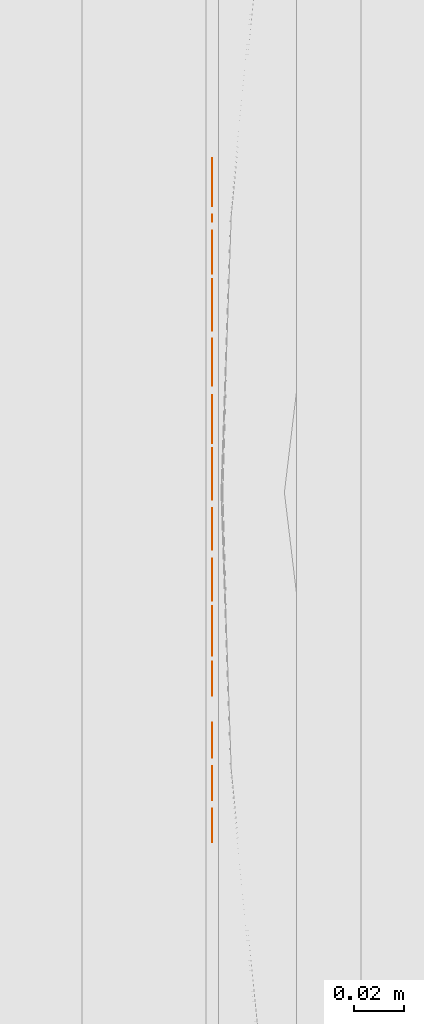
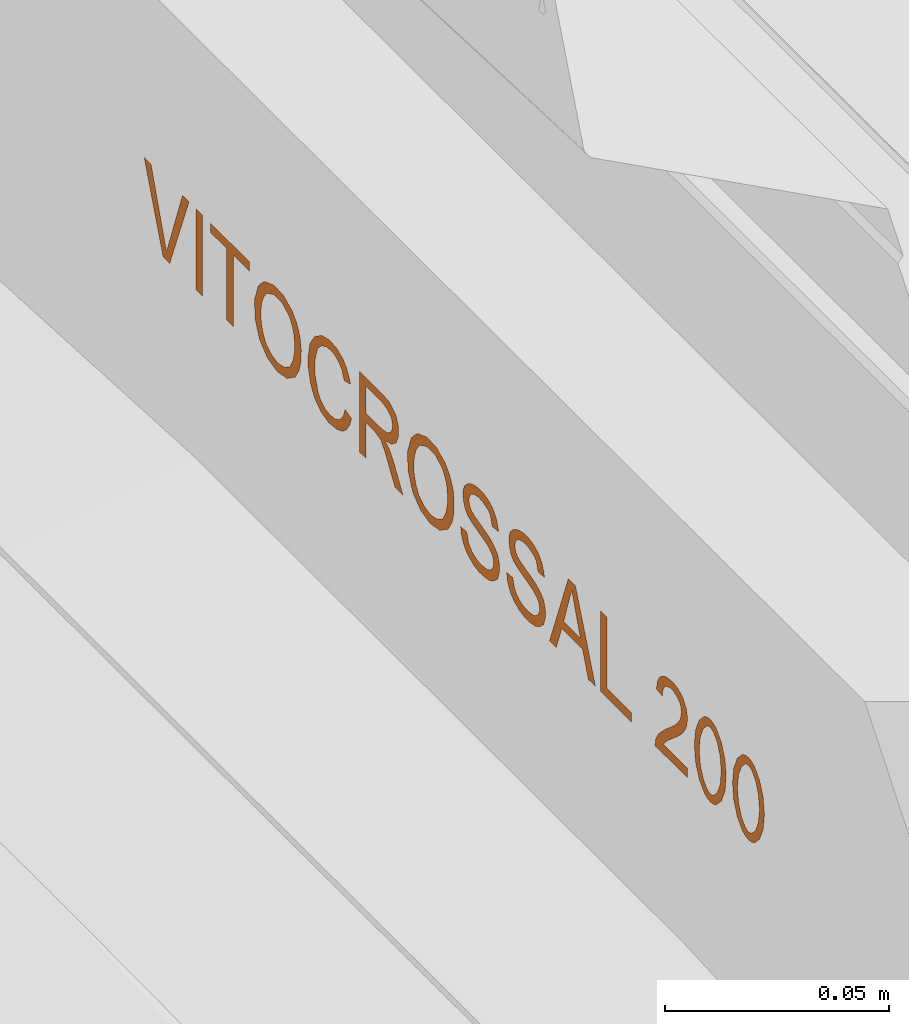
# One storey, part 366 of 374: 1 proxy.
"""IFC2X3 building model written with IfcOpenShell, lengths in metres."""

from ifc_helpers import new_model, si_unit, direction, origin, place, context, subcontext, project, spatial, open_shell, surface_model, source, transform, mapped, element, save


model = new_model("IFC2X3")

# Units and contexts
model_context = context("Model", 3, precision=1e-05, world=origin(), true_north=direction((-0.4480736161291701, 0.8939966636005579)))
body_context = subcontext(model_context, "Body", "Model", "MODEL_VIEW")
ifc_project = project(units=[si_unit("LENGTHUNIT", "METRE"), si_unit("AREAUNIT", "SQUARE_METRE"), si_unit("VOLUMEUNIT", "CUBIC_METRE"), si_unit("PLANEANGLEUNIT", "RADIAN"), si_unit("THERMODYNAMICTEMPERATUREUNIT", "KELVIN"), si_unit("MASSUNIT", "GRAM", prefix="KILO"), si_unit("TIMEUNIT", "SECOND")], contexts=[model_context])

# Site, building, storey
site_placement = place(None, origin())
site = spatial("IfcSite", under=ifc_project, at=site_placement, Name="Site 1", CompositionType="ELEMENT")
building_placement = place(site_placement, origin())
building = spatial("IfcBuilding", under=site, at=building_placement, Name="Undefined", CompositionType="ELEMENT")
storey_placement = place(building_placement, origin())
storey = spatial("IfcBuildingStorey", under=building, at=storey_placement, Name="Rez de chauss\x8ee", CompositionType="ELEMENT", Elevation=0.0)

# Proxy
shared_shape = source(origin(), body_context, "Body", "SurfaceModel", [
    surface_model("IfcFaceBasedSurfaceModel", [(0.0013176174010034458, 0.0018140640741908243, 0.0), (0.0, 0.0, 0.0), (0.0046129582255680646, -1.776356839e-15, 0.0), (0.0037990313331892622, -0.0020892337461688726, 0.0), (0.007799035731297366, -0.0007456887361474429, 0.0), (0.0076570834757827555, -0.002983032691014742, 0.0), (0.010189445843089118, -0.0004502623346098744, 0.0), (0.010986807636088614, -0.0025452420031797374, 0.0), (0.010953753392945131, -3.997256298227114e-05, 0.0), (0.012289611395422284, -0.0018400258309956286, 0.0), (0.011467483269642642, 0.0004748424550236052, 0.0), (0.013281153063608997, -0.0008424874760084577, 0.0), (0.013923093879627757, 0.00040886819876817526, 0.0), (-0.0014271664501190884, 0.004386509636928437, 0.0), (-0.003161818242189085, 0.002966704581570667, 0.0), (-0.003121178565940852, 0.007185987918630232, 0.0), (-0.005204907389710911, 0.006359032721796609, 0.0), (-0.0035795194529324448, 0.009550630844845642, 0.0), (-0.005818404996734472, 0.009660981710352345, 0.0), (-0.003425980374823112, 0.010404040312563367, 0.0), (-0.005550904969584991, 0.011117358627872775, 0.0), (-0.003095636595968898, 0.011052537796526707, 0.0), (-0.00490871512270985, 0.012369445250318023, 0.0), (-0.0039166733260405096, 0.013367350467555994, 0.0), (-0.0025811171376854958, 0.011567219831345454, 0.0), (-0.0026144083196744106, 0.014072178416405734, 0.0), (-0.0018170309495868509, 0.011977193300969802, 0.0), (0.0007156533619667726, 0.014509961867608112, 0.0), (0.0005736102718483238, 0.012272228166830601, 0.0), (0.0045733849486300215, 0.013616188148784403, 0.0), (0.0037595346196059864, 0.011527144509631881, 0.0), (0.008372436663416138, 0.011526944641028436, 0.0), (0.0070550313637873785, 0.009713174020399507, 0.0), (0.009799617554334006, 0.007140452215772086, 0.0), (0.011534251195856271, 0.008560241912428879, 0.0), (0.01149377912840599, 0.004340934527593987, 0.0), (0.01357737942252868, 0.005167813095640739, 0.0), (0.01195197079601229, 0.0019763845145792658, 0.0), (0.014190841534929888, 0.0018660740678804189, 0.0), (0.01179816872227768, 0.001122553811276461, 0.0), (-0.008697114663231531, -0.01197399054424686, 0.0), (-0.010014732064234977, -0.013788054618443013, 0.0), (-0.005401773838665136, -0.01378805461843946, 0.0), (-0.006215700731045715, -0.015877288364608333, 0.0), (-0.002215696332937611, -0.014533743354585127, 0.0), (-0.0023576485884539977, -0.01677108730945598, 0.0), (0.00017471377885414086, -0.014238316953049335, 0.0), (0.0009720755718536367, -0.016333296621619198, 0.0), (0.0009390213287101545, -0.013828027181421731, 0.0), (0.0022748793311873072, -0.01562808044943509, 0.0), (0.0014527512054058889, -0.013313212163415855, 0.0), (0.0032664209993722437, -0.014630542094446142, 0.0), (0.00390836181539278, -0.013379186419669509, 0.0), (-0.011441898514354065, -0.009401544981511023, 0.0), (-0.013176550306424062, -0.010821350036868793, 0.0), (-0.013135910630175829, -0.006602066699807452, 0.0), (-0.015219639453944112, -0.007429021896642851, 0.0), (-0.013594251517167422, -0.004237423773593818, 0.0), (-0.015833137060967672, -0.004127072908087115, 0.0), (-0.013440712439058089, -0.0033840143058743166, 0.0), (-0.015565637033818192, -0.002670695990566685, 0.0), (-0.013110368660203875, -0.0027355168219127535, 0.0), (-0.014923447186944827, -0.0014186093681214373, 0.0), (-0.01393140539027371, -0.0004207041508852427, 0.0), (-0.012595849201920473, -0.002220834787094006, 0.0), (-0.012629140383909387, 0.00028412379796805, 0.0), (-0.011831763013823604, -0.0018108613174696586, 0.0), (-0.009299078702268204, 0.0007219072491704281, 0.0), (-0.009441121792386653, -0.0015158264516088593, 0.0), (-0.005441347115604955, -0.00017186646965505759, 0.0), (-0.00625519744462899, -0.0022609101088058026, 0.0), (-0.0016422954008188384, -0.0022611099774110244, 0.0), (-0.0029597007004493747, -0.004074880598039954, 0.0), (-0.00021511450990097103, -0.006647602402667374, 0.0), (0.0015195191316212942, -0.005227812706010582, 0.0), (0.001479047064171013, -0.009447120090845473, 0.0), (0.0035626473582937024, -0.008620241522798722, 0.0), (0.0019372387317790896, -0.011811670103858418, 0.0), (0.004176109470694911, -0.011921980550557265, 0.0), (0.001783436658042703, -0.012665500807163, 0.0), (0.040251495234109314, 0.03642580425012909, 0.0), (0.041944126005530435, 0.03875617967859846, 0.0), (0.02458619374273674, 0.04780404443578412, 0.0), (0.024142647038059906, 0.051685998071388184, 0.0), (0.01610265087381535, 0.04061671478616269, 0.0), (0.01823882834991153, 0.039065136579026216, 0.0), (0.03426422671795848, 0.054321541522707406, 0.0), (0.025459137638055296, 0.05349851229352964, 0.0), (0.036770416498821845, 0.05368780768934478, 0.0), (0.04852657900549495, 0.04781875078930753, 0.0), (0.04763670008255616, 0.05054164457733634, 0.0), (0.05040727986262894, 0.05040805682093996, 0.0), (0.04951944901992, 0.051769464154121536, 0.0), (0.037542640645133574, 0.07013480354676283, 0.0), (0.03967124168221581, 0.06176579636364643, 0.0), (0.041143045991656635, 0.05970794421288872, 0.0), (0.03920106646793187, 0.061118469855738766, 0.0), (0.03482843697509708, 0.05509833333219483, 0.0), (0.035755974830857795, 0.06767496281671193, 0.0), (0.027386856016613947, 0.05615255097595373, 0.0), (0.06100633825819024, 0.06442459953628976, 0.0), (0.06227378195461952, 0.06614656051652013, 0.0), (0.060170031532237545, 0.06755515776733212, 0.0), (0.06315482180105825, 0.06809472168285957, 0.0), (0.06093653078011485, 0.06926096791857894, 0.0), (0.06356008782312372, 0.06974943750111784, 0.0), (0.061187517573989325, 0.0705969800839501, 0.0), (0.06359093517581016, 0.07145277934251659, 0.0), (0.06083631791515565, 0.07191021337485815, 0.0), (0.06324584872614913, 0.07312108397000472, 0.0), (0.062377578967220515, 0.0743092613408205, 0.0), (0.05899523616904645, 0.06610010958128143, 0.0), (0.05940807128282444, 0.06300435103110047, 0.0), (0.05748926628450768, 0.06499134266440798, 0.0), (0.05689018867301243, 0.0645812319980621, 0.0), (0.05735051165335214, 0.06188122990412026, 0.0), (0.05620057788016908, 0.06435424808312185, 0.0), (0.05502944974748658, 0.06155316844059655, 0.0), (0.05547503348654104, 0.06432836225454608, 0.0), (0.05274122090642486, 0.062062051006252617, 0.0), (0.05312761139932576, 0.06504454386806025, 0.0), (0.051676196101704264, 0.06263784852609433, 0.0), (0.059951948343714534, 0.07294259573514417, 0.0), (0.061254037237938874, 0.0752596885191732, 0.0), (0.05993835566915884, 0.0759189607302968, 0.0), (0.058712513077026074, 0.07338172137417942, 0.0), (0.05826991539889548, 0.07632036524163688, 0.0), (0.05740569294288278, 0.07323593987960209, 0.0), (0.05657350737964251, 0.07606148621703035, 0.0), (0.05510073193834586, 0.07518071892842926, 0.0), (0.05197002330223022, 0.06907225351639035, 0.0), (0.05299516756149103, 0.06989359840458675, 0.0), (0.050547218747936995, 0.07156627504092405, 0.0), (0.05400055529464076, 0.07073901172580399, 0.0), (0.05629349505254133, 0.07253447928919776, 0.0), (0.04941931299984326, 0.07065395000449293, 0.0), (0.050925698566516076, 0.06827543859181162, 0.0), (0.04956789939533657, 0.06750198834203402, 0.0), (0.04813186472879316, 0.06998538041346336, 0.0), (0.04810509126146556, 0.06695241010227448, 0.0), (0.04673679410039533, 0.06958752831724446, 0.0), (0.04657390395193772, 0.06664046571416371, 0.0), (0.04446046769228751, 0.06735959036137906, 0.0), (0.04546863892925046, 0.0698845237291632, 0.0), (0.04267054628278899, 0.06869373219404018, 0.0), (0.04443170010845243, 0.07067267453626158, 0.0), (0.04137757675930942, 0.07051361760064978, 0.0), (0.0438061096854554, 0.07181506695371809, 0.0), (0.041010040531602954, 0.07287199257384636, 0.0), (0.0436515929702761, 0.07315922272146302, 0.0), (0.041364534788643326, 0.07523236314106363, 0.0), (0.04390347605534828, 0.07448857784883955, 0.0), (0.04453900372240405, 0.07568303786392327, 0.0), (0.042408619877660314, 0.07737873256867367, 0.0), (0.045443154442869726, 0.07713446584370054, 0.0), (0.043814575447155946, 0.07936990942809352, 0.0), (0.04663502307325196, 0.07836067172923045, 0.0), (0.04562214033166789, 0.08100520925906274, 0.0), (0.048060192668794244, 0.07930567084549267, 0.0), (0.04774371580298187, 0.08220538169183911, 0.0), (0.048909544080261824, 0.07965011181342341, 0.0), (0.04944031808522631, 0.08266436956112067, 0.0), (0.049808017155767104, 0.079831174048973, 0.0), (0.05072448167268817, 0.07984258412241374, 0.0), (0.05302488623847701, 0.07906166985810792, 0.0), (0.05291113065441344, 0.08230855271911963, 0.0), (0.05119755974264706, 0.08269945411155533, 0.0), (0.054476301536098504, 0.08146836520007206, 0.0), (0.07304282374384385, 0.08099615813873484, 0.0), (0.07431026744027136, 0.08271811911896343, 0.0), (0.07220651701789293, 0.0841267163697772, 0.0), (0.07519130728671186, 0.0846662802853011, 0.0), (0.07297301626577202, 0.0858325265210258, 0.0), (0.07559657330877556, 0.08632099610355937, 0.0), (0.07322400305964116, 0.08716853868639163, 0.0), (0.07562742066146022, 0.0880243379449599, 0.0), (0.07287280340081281, 0.08848177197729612, 0.0), (0.07528233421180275, 0.08969264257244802, 0.0), (0.07441406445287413, 0.0908808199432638, 0.0), (0.07103172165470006, 0.08267166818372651, 0.0), (0.07144455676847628, 0.079575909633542, 0.0), (0.06952575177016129, 0.08156290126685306, 0.0), (0.0689266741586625, 0.0811527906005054, 0.0), (0.06938699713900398, 0.07845278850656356, 0.0), (0.06823706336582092, 0.08092580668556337, 0.0), (0.0670659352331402, 0.07812472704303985, 0.0), (0.06751151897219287, 0.0808999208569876, 0.0), (0.0647777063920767, 0.07863360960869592, 0.0), (0.0651640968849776, 0.08161610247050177, 0.0), (0.06371268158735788, 0.07920940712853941, 0.0), (0.07198843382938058, 0.08951415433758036, 0.0), (0.07329052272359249, 0.09183124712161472, 0.0), (0.07197484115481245, 0.0924905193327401, 0.0), (0.07074899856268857, 0.08995327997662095, 0.0), (0.07030640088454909, 0.0928919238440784, 0.0), (0.06944217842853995, 0.08980749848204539, 0.0), (0.0686099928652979, 0.0926330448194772, 0.0), (0.06713721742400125, 0.09175227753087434, 0.0), (0.06400650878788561, 0.08564381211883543, 0.0), (0.06503165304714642, 0.08646515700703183, 0.0), (0.06258370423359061, 0.08813783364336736, 0.0), (0.06603704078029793, 0.08731057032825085, 0.0), (0.06832998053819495, 0.08910603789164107, 0.0), (0.06145579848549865, 0.08722550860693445, 0.0), (0.06296218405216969, 0.08484699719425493, 0.0), (0.061604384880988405, 0.08407354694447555, 0.0), (0.06016835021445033, 0.08655693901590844, 0.0), (0.060141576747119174, 0.08352396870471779, 0.0), (0.05877327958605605, 0.08615908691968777, 0.0), (0.05861038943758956, 0.08321202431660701, 0.0), (0.05649695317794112, 0.08393114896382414, 0.0), (0.05750512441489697, 0.08645608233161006, 0.0), (0.05470703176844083, 0.08526529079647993, 0.0), (0.056468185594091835, 0.08724423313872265, 0.0), (0.053414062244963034, 0.08708517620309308, 0.0), (0.05584259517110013, 0.08838662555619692, 0.0), (0.05304652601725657, 0.08944355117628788, 0.0), (0.05568807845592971, 0.08973078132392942, 0.0), (0.05340102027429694, 0.09180392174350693, 0.0), (0.055939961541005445, 0.09106013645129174, 0.0), (0.05657548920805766, 0.09225459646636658, 0.0), (0.05444510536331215, 0.09395029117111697, 0.0), (0.05747963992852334, 0.09370602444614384, 0.0), (0.05585106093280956, 0.09594146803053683, 0.0), (0.05867150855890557, 0.09493223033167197, 0.0), (0.05765862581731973, 0.09757676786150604, 0.0), (0.06009667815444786, 0.09587722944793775, 0.0), (0.05978020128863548, 0.09877694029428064, 0.0), (0.06094602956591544, 0.09622167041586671, 0.0), (0.06147680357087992, 0.09923592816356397, 0.0), (0.061844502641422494, 0.09640273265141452, 0.0), (0.06276096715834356, 0.09641414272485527, 0.0), (0.06506137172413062, 0.09563322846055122, 0.0), (0.06494761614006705, 0.09888011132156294, 0.0), (0.06323404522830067, 0.09927101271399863, 0.0), (0.06651278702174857, 0.09803992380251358, 0.0), (0.08886711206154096, 0.10540077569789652, 0.0), (0.08874172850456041, 0.10679271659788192, 0.0), (0.08618137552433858, 0.10626380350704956, 0.0), (0.08852291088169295, 0.10817305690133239, 0.0), (0.08540516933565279, 0.10867005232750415, 0.0), (0.08821165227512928, 0.1095355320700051, 0.0), (0.08402348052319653, 0.1107874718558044, 0.0), (0.08536935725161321, 0.1136260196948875, 0.0), (0.08213357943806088, 0.11246699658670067, 0.0), (0.08122729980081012, 0.1163926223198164, 0.0), (0.08006992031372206, 0.11373243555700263, 0.0), (0.07777252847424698, 0.11449533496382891, 0.0), (0.08556167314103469, 0.1026330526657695, 0.0), (0.08768271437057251, 0.10125592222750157, 0.0), (0.08329294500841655, 0.09973145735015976, 0.0), (0.08498166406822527, 0.09789631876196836, 0.0), (0.08118793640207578, 0.09584931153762, 0.0), (0.07991885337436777, 0.09825433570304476, 0.0), (0.07815741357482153, 0.09545269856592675, 0.0), (0.07790933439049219, 0.09829534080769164, 0.0), (0.07514132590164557, 0.09594725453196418, 0.0), (0.07596772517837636, 0.09881495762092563, 0.0), (0.07239616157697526, 0.09729092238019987, 0.0), (0.07420633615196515, 0.09978312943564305, 0.0), (0.07197182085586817, 0.10138800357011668, 0.0), (0.06976412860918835, 0.09928282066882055, 0.0), (0.07020447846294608, 0.10349636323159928, 0.0), (0.06774688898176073, 0.10189548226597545, 0.0), (0.06648576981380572, 0.10494586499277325, 0.0), (0.06901446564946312, 0.10597679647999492, 0.0), (0.06657589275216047, 0.10943632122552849, 0.0), (0.0691287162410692, 0.10895535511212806, 0.0), (0.07037554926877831, 0.11166280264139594, 0.0), (0.06853862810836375, 0.11347612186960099, 0.0), (0.07256463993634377, 0.11368585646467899, 0.0), (0.07201302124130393, 0.11632233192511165, 0.0), (0.07536183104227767, 0.11471570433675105, 0.0), (0.07636011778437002, 0.1174515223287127, 0.0), (0.09731650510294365, 0.11907580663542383, 0.0), (0.0993525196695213, 0.11779474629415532, 0.0), (0.10140702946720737, 0.1247075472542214, 0.0), (0.10334900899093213, 0.12329702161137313, 0.0), (0.10508865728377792, 0.12569212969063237, 0.0), (0.09579097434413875, 0.11763607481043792, 0.0), (0.09710769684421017, 0.1151950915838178, 0.0), (0.09391219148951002, 0.11670320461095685, 0.0), (0.09397280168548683, 0.11379157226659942, 0.0), (0.09278293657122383, 0.1168175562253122, 0.0), (0.09129981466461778, 0.11432393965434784, 0.0), (0.09174995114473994, 0.11728791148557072, 0.0), (0.08905991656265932, 0.11587672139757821, 0.0), (0.0909222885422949, 0.11806461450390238, 0.0), (0.08771797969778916, 0.11809612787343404, 0.0), (0.09038732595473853, 0.11906566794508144, 0.0), (0.08760994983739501, 0.12068743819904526, 0.0), (0.09030981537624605, 0.1210511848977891, 0.0), (0.08805925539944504, 0.12189120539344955, 0.0), (0.08865525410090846, 0.12348798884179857, 0.0), (0.09119381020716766, 0.12283074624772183, 0.0), (0.09184899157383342, 0.12393699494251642, 0.0), (0.09344491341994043, 0.13049070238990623, 0.0), (0.09551635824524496, 0.12898614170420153, 0.0), (0.09147017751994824, 0.12777193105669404, 0.0), (0.08921266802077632, 0.1257529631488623, 0.0), (0.08611296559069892, 0.12543342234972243, 0.0), (0.0865714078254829, 0.12268665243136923, 0.0), (0.08435014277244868, 0.12246184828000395, 0.0), (0.08728717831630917, 0.13862194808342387, 0.0), (0.08554753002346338, 0.13622684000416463, 0.0), (0.0780247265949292, 0.12586961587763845, 0.0), (0.0758619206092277, 0.12289191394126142, 0.0), (0.11088139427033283, 0.1372070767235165, 0.0), (0.1095682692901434, 0.1359432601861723, 0.0), (0.1111717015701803, 0.1339050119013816, 0.0), (0.10796226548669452, 0.1350817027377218, 0.0), (0.10823749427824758, 0.13220561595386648, 0.0), (0.10618309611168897, 0.13468662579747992, 0.0), (0.10634820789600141, 0.1319603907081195, 0.0), (0.1044449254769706, 0.1320443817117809, 0.0), (0.11338185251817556, 0.13647653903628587, 0.0), (0.11196348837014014, 0.1392227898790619, 0.0), (0.11462095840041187, 0.1396328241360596, 0.0), (0.1123382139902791, 0.14147969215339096, 0.0), (0.11471803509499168, 0.14343599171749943, 0.0), (0.11196558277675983, 0.1437369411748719, 0.0), (0.1134006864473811, 0.14700503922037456, 0.0), (0.1095647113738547, 0.14698306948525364, 0.0), (0.11085599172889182, 0.1498331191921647, 0.0), (0.10628184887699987, 0.1493334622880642, 0.0), (0.10803362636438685, 0.15186728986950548, 0.0), (0.10478041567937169, 0.15310026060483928, 0.0), (0.10243523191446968, 0.1505602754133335, 0.0), (0.10131878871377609, 0.1534477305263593, 0.0), (0.10019771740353, 0.15044086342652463, 0.0), (0.09783982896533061, 0.15227226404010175, 0.0), (0.09817022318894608, 0.14948692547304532, 0.0), (0.09501476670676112, 0.14992622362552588, 0.0), (0.09665179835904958, 0.14783916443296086, 0.0), (0.09322024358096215, 0.14672238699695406, 0.0), (0.0955956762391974, 0.14586518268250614, 0.0), (0.09262698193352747, 0.14433404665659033, 0.0), (0.09532795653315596, 0.14364249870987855, 0.0), (0.0927608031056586, 0.1418767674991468, 0.0), (0.09588514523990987, 0.14147419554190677, 0.0), (0.09360992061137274, 0.13956697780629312, 0.0), (0.09404211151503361, 0.13883137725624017, 0.0), (0.09730993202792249, 0.1393516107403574, 0.0), (0.0945176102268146, 0.1381230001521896, 0.0), (0.09503470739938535, 0.13744439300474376, 0.0), (0.10369462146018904, 0.13520860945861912, 0.0), (0.10258458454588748, 0.1324550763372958, 0.0), (0.12126374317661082, 0.15102476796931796, 0.0), (0.1250574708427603, 0.15307177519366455, 0.0), (0.12336875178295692, 0.15490691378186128, 0.0), (0.12775852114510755, 0.15643137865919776, 0.0), (0.1256374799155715, 0.15780850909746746, 0.0), (0.12894291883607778, 0.16057623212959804, 0.0), (0.12625718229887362, 0.16143925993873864, 0.0), (0.12881753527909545, 0.1619681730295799, 0.0), (0.128598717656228, 0.16334851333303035, 0.0), (0.11999466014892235, 0.1534297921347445, 0.0), (0.11823322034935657, 0.15062815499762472, 0.0), (0.11798514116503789, 0.15347079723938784, 0.0), (0.11521713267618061, 0.15112271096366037, 0.0), (0.11604353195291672, 0.15399041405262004, 0.0), (0.1124719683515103, 0.15246637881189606, 0.0), (0.11428214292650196, 0.15495858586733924, 0.0), (0.11204762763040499, 0.15656346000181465, 0.0), (0.10983993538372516, 0.15445827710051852, 0.0), (0.1102802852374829, 0.15867181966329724, 0.0), (0.10782269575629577, 0.1570709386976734, 0.0), (0.10656157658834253, 0.16012132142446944, 0.0), (0.10909027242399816, 0.16115225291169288, 0.0), (0.10665169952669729, 0.16461177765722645, 0.0), (0.10920452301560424, 0.16413081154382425, 0.0), (0.11045135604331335, 0.1668382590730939, 0.0), (0.10861443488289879, 0.16865157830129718, 0.0), (0.1126404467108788, 0.16886131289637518, 0.0), (0.11208882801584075, 0.17149778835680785, 0.0), (0.11543763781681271, 0.169891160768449, 0.0), (0.11643592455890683, 0.17262697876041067, 0.0), (0.11784833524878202, 0.16967079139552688, 0.0), (0.12130310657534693, 0.17156807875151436, 0.0), (0.1201457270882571, 0.1689078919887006, 0.0), (0.12220938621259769, 0.16764245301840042, 0.0), (0.12544516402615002, 0.16880147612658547, 0.0), (0.12409928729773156, 0.16596292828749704, 0.0), (0.1282874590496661, 0.16471098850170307, 0.0), (0.1254809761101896, 0.1638455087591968, 0.0), (0.13183895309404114, 0.16687780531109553, 0.0), (0.13391039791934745, 0.16537324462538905, 0.0), (0.1361175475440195, 0.17276847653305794, 0.0), (0.1441602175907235, 0.17948496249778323, 0.0), (0.13785719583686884, 0.17516358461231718, 0.0), (0.1420887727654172, 0.18098952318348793, 0.0), (0.12212716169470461, 0.1865888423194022, 0.0), (0.12038751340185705, 0.18419373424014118, 0.0), (0.14792161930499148, 0.18466357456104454, 0.0), (0.13012014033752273, 0.19759339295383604, 0.0), (0.14622898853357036, 0.18233319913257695, 0.0), (0.1284275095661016, 0.19526301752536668, 0.0), (0.15149495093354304, 0.18958325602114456, 0.0), (0.1398200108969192, 0.20686375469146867, 0.0), (0.14975530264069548, 0.1871881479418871, 0.0), (0.13703171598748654, 0.20710909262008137, 0.0), (0.15972301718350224, 0.2009114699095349, 0.0), (0.16155670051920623, 0.20343604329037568, 0.0), (0.13877136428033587, 0.20950420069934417, 0.0), (0.02282794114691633, 0.012328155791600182, 0.0), (0.021090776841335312, 0.013819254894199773, 0.0), (0.021485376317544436, 0.010997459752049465, 0.0), (0.019854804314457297, 0.012972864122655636, 0.0), (0.019204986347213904, 0.009894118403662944, 0.0), (0.01859326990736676, 0.012419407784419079, 0.0), (0.016672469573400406, 0.00983167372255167, 0.0), (0.01721648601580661, 0.01246683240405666, 0.0), (0.014340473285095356, 0.010821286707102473, 0.0), (0.0159960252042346, 0.013105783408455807, 0.0), (0.015165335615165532, 0.013957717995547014, 0.0), (0.023894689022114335, 0.013888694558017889, 0.0), (0.021971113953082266, 0.015031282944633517, 0.0), (0.024647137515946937, 0.015622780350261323, 0.0), (0.022393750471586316, 0.016468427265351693, 0.0), (0.024939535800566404, 0.017272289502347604, 0.0), (0.02239043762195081, 0.01758141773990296, 0.0), (0.02471578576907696, 0.01893250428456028, 0.0), (0.022025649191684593, 0.01863293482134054, 0.0), (0.023997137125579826, 0.02044575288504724, 0.0), (0.021338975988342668, 0.019508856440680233, 0.0), (0.022319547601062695, 0.02235642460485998, 0.0), (0.020462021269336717, 0.02034358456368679, 0.0), (0.01262580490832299, 0.01268607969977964, 0.0), (0.014522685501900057, 0.014959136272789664, 0.0), (0.011712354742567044, 0.014768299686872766, 0.0), (0.014094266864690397, 0.01606922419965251, 0.0), (0.01113283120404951, 0.016966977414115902, 0.0), (0.013701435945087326, 0.01774286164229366, 0.0), (0.01090125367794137, 0.019228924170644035, 0.0), (0.01343227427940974, 0.01944078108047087, 0.0), (0.013288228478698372, 0.02115385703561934, 0.0), (0.013078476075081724, 0.02363695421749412, 0.0), (0.010394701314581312, 0.02513430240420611, 0.0), (0.012744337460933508, 0.026106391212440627, 0.0), (0.009822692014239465, 0.027477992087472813, 0.0), (0.012286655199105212, 0.02855594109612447, 0.0), (0.011261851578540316, 0.030684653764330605, 0.0), (0.009896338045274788, 0.03207200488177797, 0.0), (0.0013391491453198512, 0.02029066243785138, 0.0), (0.003475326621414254, 0.018739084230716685, 0.0)], [open_shell([[[0, 1, 2]], [[2, 1, 3]], [[2, 3, 4]], [[4, 3, 5]], [[4, 5, 6]], [[6, 5, 7]], [[6, 7, 8]], [[8, 7, 9]], [[8, 9, 10]], [[10, 9, 11]], [[10, 11, 12]], [[0, 13, 1]], [[1, 13, 14]], [[13, 15, 14]], [[14, 15, 16]], [[15, 17, 16]], [[16, 17, 18]], [[17, 19, 18]], [[18, 19, 20]], [[19, 21, 20]], [[20, 21, 22]], [[22, 21, 23]], [[23, 21, 24]], [[23, 24, 25]], [[25, 24, 26]], [[25, 26, 27]], [[27, 26, 28]], [[27, 28, 29]], [[29, 28, 30]], [[29, 30, 31]], [[31, 30, 32]], [[31, 32, 33]], [[31, 33, 34]], [[34, 33, 35]], [[34, 35, 36]], [[36, 35, 37]], [[36, 37, 38]], [[38, 37, 39]], [[38, 39, 12]], [[12, 39, 10]], [[40, 41, 42]], [[42, 41, 43]], [[42, 43, 44]], [[44, 43, 45]], [[44, 45, 46]], [[46, 45, 47]], [[46, 47, 48]], [[48, 47, 49]], [[48, 49, 50]], [[50, 49, 51]], [[50, 51, 52]], [[40, 53, 41]], [[41, 53, 54]], [[53, 55, 54]], [[54, 55, 56]], [[55, 57, 56]], [[56, 57, 58]], [[57, 59, 58]], [[58, 59, 60]], [[59, 61, 60]], [[60, 61, 62]], [[62, 61, 63]], [[63, 61, 64]], [[63, 64, 65]], [[65, 64, 66]], [[65, 66, 67]], [[67, 66, 68]], [[67, 68, 69]], [[69, 68, 70]], [[69, 70, 71]], [[71, 70, 72]], [[71, 72, 73]], [[71, 73, 74]], [[74, 73, 75]], [[74, 75, 76]], [[76, 75, 77]], [[76, 77, 78]], [[78, 77, 79]], [[78, 79, 52]], [[52, 79, 50]], [[80, 81, 82]], [[82, 81, 83]], [[82, 83, 84]], [[84, 85, 82]], [[86, 87, 88]], [[88, 87, 89]], [[88, 89, 90]], [[90, 89, 91]], [[90, 91, 92]], [[93, 94, 95]], [[95, 94, 96]], [[95, 96, 88]], [[88, 96, 97]], [[88, 97, 86]], [[93, 95, 92]], [[92, 95, 90]], [[93, 98, 94]], [[86, 99, 87]], [[100, 101, 102]], [[102, 101, 103]], [[102, 103, 104]], [[104, 103, 105]], [[104, 105, 106]], [[106, 105, 107]], [[106, 107, 108]], [[108, 107, 109]], [[108, 109, 110]], [[102, 111, 100]], [[100, 111, 112]], [[111, 113, 112]], [[112, 113, 114]], [[112, 114, 115]], [[115, 114, 116]], [[115, 116, 117]], [[117, 116, 118]], [[117, 118, 119]], [[119, 118, 120]], [[119, 120, 121]], [[108, 110, 122]], [[122, 110, 123]], [[122, 123, 124]], [[122, 124, 125]], [[125, 124, 126]], [[125, 126, 127]], [[127, 126, 128]], [[127, 128, 129]], [[130, 131, 132]], [[132, 131, 133]], [[132, 133, 129]], [[129, 133, 134]], [[129, 134, 127]], [[132, 135, 130]], [[130, 135, 136]], [[136, 135, 137]], [[137, 135, 138]], [[137, 138, 139]], [[139, 138, 140]], [[139, 140, 141]], [[141, 140, 142]], [[140, 143, 142]], [[142, 143, 144]], [[143, 145, 144]], [[144, 145, 146]], [[145, 147, 146]], [[146, 147, 148]], [[147, 149, 148]], [[148, 149, 150]], [[149, 151, 150]], [[150, 151, 152]], [[150, 152, 153]], [[153, 152, 154]], [[153, 154, 155]], [[155, 154, 156]], [[155, 156, 157]], [[157, 156, 158]], [[157, 158, 159]], [[159, 158, 160]], [[159, 160, 161]], [[161, 160, 162]], [[161, 162, 163]], [[164, 165, 163]], [[163, 165, 166]], [[163, 166, 161]], [[164, 167, 165]], [[168, 169, 170]], [[170, 169, 171]], [[170, 171, 172]], [[172, 171, 173]], [[172, 173, 174]], [[174, 173, 175]], [[174, 175, 176]], [[176, 175, 177]], [[176, 177, 178]], [[170, 179, 168]], [[168, 179, 180]], [[179, 181, 180]], [[180, 181, 182]], [[180, 182, 183]], [[183, 182, 184]], [[183, 184, 185]], [[185, 184, 186]], [[185, 186, 187]], [[187, 186, 188]], [[187, 188, 189]], [[176, 178, 190]], [[190, 178, 191]], [[190, 191, 192]], [[190, 192, 193]], [[193, 192, 194]], [[193, 194, 195]], [[195, 194, 196]], [[195, 196, 197]], [[198, 199, 200]], [[200, 199, 201]], [[200, 201, 197]], [[197, 201, 202]], [[197, 202, 195]], [[200, 203, 198]], [[198, 203, 204]], [[204, 203, 205]], [[205, 203, 206]], [[205, 206, 207]], [[207, 206, 208]], [[207, 208, 209]], [[209, 208, 210]], [[208, 211, 210]], [[210, 211, 212]], [[211, 213, 212]], [[212, 213, 214]], [[213, 215, 214]], [[214, 215, 216]], [[215, 217, 216]], [[216, 217, 218]], [[217, 219, 218]], [[218, 219, 220]], [[218, 220, 221]], [[221, 220, 222]], [[221, 222, 223]], [[223, 222, 224]], [[223, 224, 225]], [[225, 224, 226]], [[225, 226, 227]], [[227, 226, 228]], [[227, 228, 229]], [[229, 228, 230]], [[229, 230, 231]], [[232, 233, 231]], [[231, 233, 234]], [[231, 234, 229]], [[232, 235, 233]], [[236, 237, 238]], [[238, 237, 239]], [[238, 239, 240]], [[240, 239, 241]], [[240, 241, 242]], [[242, 241, 243]], [[242, 243, 244]], [[244, 243, 245]], [[244, 245, 246]], [[246, 245, 247]], [[238, 248, 236]], [[236, 248, 249]], [[248, 250, 249]], [[249, 250, 251]], [[251, 250, 252]], [[252, 250, 253]], [[252, 253, 254]], [[254, 253, 255]], [[254, 255, 256]], [[256, 255, 257]], [[256, 257, 258]], [[258, 257, 259]], [[258, 259, 260]], [[258, 260, 261]], [[261, 260, 262]], [[261, 262, 263]], [[263, 262, 264]], [[262, 265, 264]], [[264, 265, 266]], [[265, 267, 266]], [[266, 267, 268]], [[266, 268, 269]], [[269, 268, 270]], [[269, 270, 271]], [[271, 270, 272]], [[271, 272, 273]], [[273, 272, 247]], [[273, 247, 245]], [[274, 275, 276]], [[276, 275, 277]], [[276, 277, 278]], [[274, 279, 275]], [[275, 279, 280]], [[279, 281, 280]], [[280, 281, 282]], [[281, 283, 282]], [[282, 283, 284]], [[283, 285, 284]], [[284, 285, 286]], [[285, 287, 286]], [[286, 287, 288]], [[287, 289, 288]], [[288, 289, 290]], [[289, 291, 290]], [[290, 291, 292]], [[292, 291, 293]], [[293, 291, 294]], [[293, 294, 295]], [[278, 296, 297]], [[297, 296, 298]], [[297, 298, 295]], [[295, 298, 299]], [[295, 299, 293]], [[293, 299, 300]], [[293, 300, 301]], [[301, 300, 302]], [[297, 276, 278]], [[278, 303, 296]], [[296, 303, 304]], [[300, 305, 302]], [[302, 305, 306]], [[307, 308, 309]], [[309, 308, 310]], [[309, 310, 311]], [[311, 310, 312]], [[311, 312, 313]], [[313, 312, 314]], [[309, 315, 307]], [[307, 315, 316]], [[315, 317, 316]], [[316, 317, 318]], [[317, 319, 318]], [[318, 319, 320]], [[319, 321, 320]], [[320, 321, 322]], [[321, 323, 322]], [[322, 323, 324]], [[323, 325, 324]], [[324, 325, 326]], [[324, 326, 327]], [[327, 326, 328]], [[327, 328, 329]], [[329, 328, 330]], [[329, 330, 331]], [[331, 330, 332]], [[331, 332, 333]], [[333, 332, 334]], [[333, 334, 335]], [[335, 334, 336]], [[335, 336, 337]], [[337, 336, 338]], [[337, 338, 339]], [[339, 338, 340]], [[339, 340, 341]], [[339, 341, 342]], [[342, 341, 343]], [[342, 343, 344]], [[312, 345, 314]], [[314, 345, 346]], [[347, 348, 349]], [[349, 348, 350]], [[349, 350, 351]], [[351, 350, 352]], [[351, 352, 353]], [[353, 352, 354]], [[353, 354, 355]], [[349, 356, 347]], [[347, 356, 357]], [[356, 358, 357]], [[357, 358, 359]], [[358, 360, 359]], [[359, 360, 361]], [[360, 362, 361]], [[361, 362, 363]], [[361, 363, 364]], [[364, 363, 365]], [[364, 365, 366]], [[366, 365, 367]], [[365, 368, 367]], [[367, 368, 369]], [[368, 370, 369]], [[369, 370, 371]], [[369, 371, 372]], [[372, 371, 373]], [[372, 373, 374]], [[374, 373, 375]], [[374, 375, 376]], [[376, 375, 377]], [[376, 377, 378]], [[378, 377, 379]], [[378, 379, 380]], [[378, 380, 381]], [[381, 380, 382]], [[381, 382, 383]], [[383, 382, 384]], [[383, 384, 355]], [[355, 384, 353]], [[385, 386, 387]], [[387, 386, 388]], [[387, 388, 389]], [[389, 388, 390]], [[389, 391, 387]], [[387, 391, 392]], [[393, 394, 395]], [[395, 394, 396]], [[397, 398, 399]], [[399, 398, 400]], [[401, 402, 398]], [[398, 402, 403]], [[398, 403, 400]], [[404, 405, 406]], [[406, 405, 407]], [[406, 407, 408]], [[408, 407, 409]], [[408, 409, 410]], [[410, 409, 411]], [[410, 411, 412]], [[412, 411, 413]], [[412, 413, 414]], [[404, 415, 405]], [[405, 415, 416]], [[415, 417, 416]], [[416, 417, 418]], [[417, 419, 418]], [[418, 419, 420]], [[419, 421, 420]], [[420, 421, 422]], [[421, 423, 422]], [[422, 423, 424]], [[423, 425, 424]], [[424, 425, 426]], [[412, 414, 427]], [[427, 414, 428]], [[427, 428, 429]], [[429, 428, 430]], [[429, 430, 431]], [[431, 430, 432]], [[431, 432, 433]], [[433, 432, 434]], [[433, 434, 435]], [[435, 436, 433]], [[433, 436, 437]], [[436, 438, 437]], [[437, 438, 439]], [[438, 440, 439]], [[439, 440, 441]], [[439, 441, 442]], [[442, 443, 439]], [[439, 443, 444]]])]),
])
proxy_placement = place(storey_placement, origin())
element("IfcBuildingElementProxy", 1, at=proxy_placement, inside=storey, Name="BuildingElementProxy 24", context=body_context, shape_type="MappedRepresentation", body=[
    mapped(shared_shape, transform((53.59748766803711, 12.93193631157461, 1.1798182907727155), x_axis=(0.0, 0.5876747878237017, 0.8090972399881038), y_axis=(0.0, 0.8090972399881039, -0.5876747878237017), z_axis=(-1.0, 0.0, 0.0))),
])

save(model, "model.ifc")
